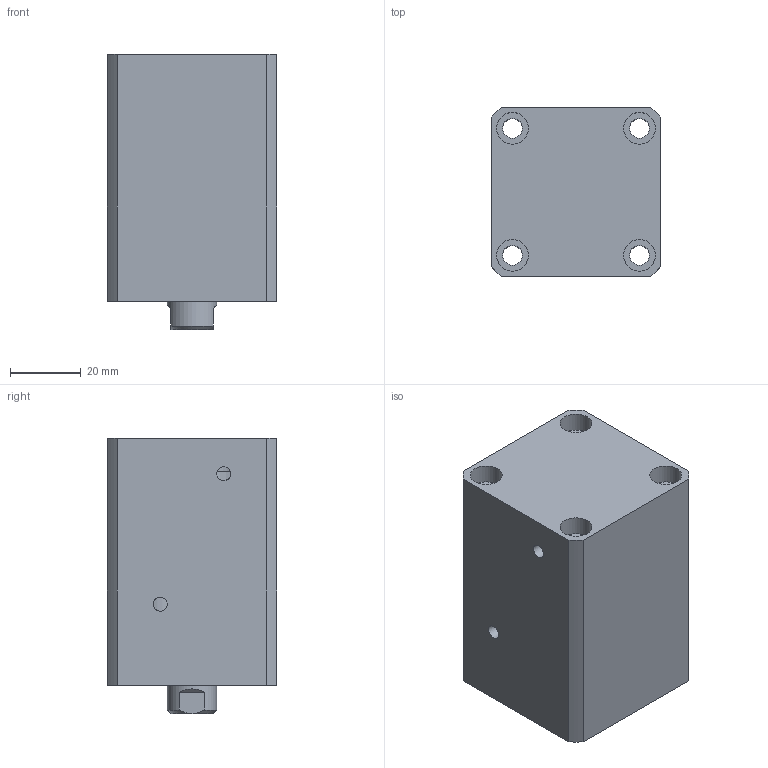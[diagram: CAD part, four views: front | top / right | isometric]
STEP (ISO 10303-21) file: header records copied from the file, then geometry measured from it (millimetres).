
FILE_DESCRIPTION(/* description */ (''),/* implementation_level */ '2;1');
FILE_NAME(/* name */ 'CHTB-sdma25x25n.stp',/* time_stamp */ '2022-04-29T15:01:14+08:00',/* author */ (''),/* organization */ (''),/* preprocessor_version */ 'ST-DEVELOPER v16.7',/* originating_system */ 'SIEMENS PLM Software NX 12.0',/* authorisation */ '');
FILE_SCHEMA (('AUTOMOTIVE_DESIGN { 1 0 10303 214 3 1 1 1 }'));
Length unit declared in the file: millimetre
Products named in the file (1): CHTB-sdma25x25n
Bounding box: 48 x 48 x 78 mm (x, y, z)
Volume: 140972.6 mm3; surface area: 39689.7 mm2
Topology: 3 solids, 3 shells, 477 faces, 1277 edges, 851 vertices
Faces by surface type: plane 303, extrusion 118, cylinder 42, bspline 8, cone 5, torus 1
Full cylindrical faces by diameter (mm): 2.5 x2, 3 x2, 4 x2, 5.6 x4, 7 x2, 8.5 x1, 9 x8, 14 x2, 21 x2, 23 x2, 25 x5, 31 x1
Entity records: 22089 total; most frequent: CARTESIAN_POINT 8037, ORIENTED_EDGE 2452, DIRECTION 1865, EDGE_CURVE 1226, VECTOR 993, LINE 875, VERTEX_POINT 840, EDGE_LOOP 577
